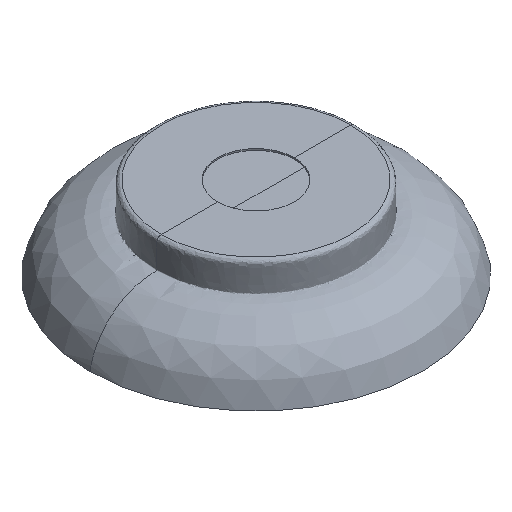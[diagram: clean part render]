
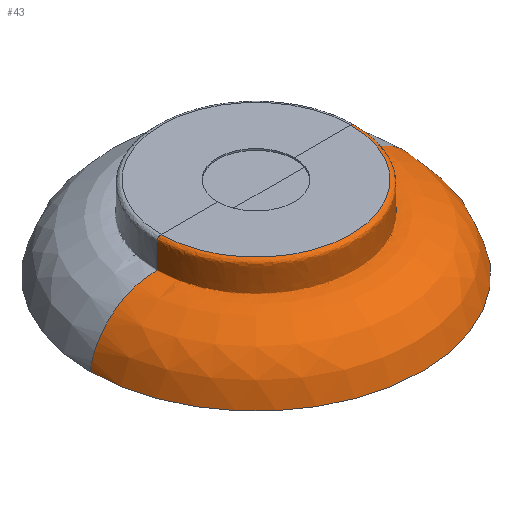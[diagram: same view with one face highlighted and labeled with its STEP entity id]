
A CAD part, isometric view. The second image highlights one B-rep face of the part: STEP entity #43.
In plain terms, the highlighted free-form (B-spline) face has degree [2, 2] with [11, 5] control points.
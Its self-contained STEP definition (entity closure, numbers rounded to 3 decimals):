
#43=ADVANCED_FACE('',(#63),#270,.T.);
#63=FACE_OUTER_BOUND('',#83,.T.);
#83=EDGE_LOOP('',(#118,#119,#120,#121));
#118=ORIENTED_EDGE('',*,*,#180,.T.);
#119=ORIENTED_EDGE('',*,*,#181,.T.);
#120=ORIENTED_EDGE('',*,*,#182,.T.);
#121=ORIENTED_EDGE('',*,*,#183,.F.);
#180=EDGE_CURVE('',#258,#260,#240,.T.);
#181=EDGE_CURVE('',#260,#261,#206,.T.);
#182=EDGE_CURVE('',#261,#259,#241,.T.);
#183=EDGE_CURVE('',#258,#259,#207,.T.);
#206=TRIMMED_CURVE($,#222,(#1972),(#1973),.T.,.CARTESIAN.);
#207=TRIMMED_CURVE($,#223,(#1986),(#1987),.T.,.CARTESIAN.);
#222=CIRCLE('',#376,217.138);
#223=CIRCLE('',#377,124.);
#240=(
BOUNDED_CURVE()
B_SPLINE_CURVE(2,(#1960,#1961,#1962,#1963,#1964,#1965,#1966,#1967,#1968,
#1969,#1970),.UNSPECIFIED.,.F.,.F.)
B_SPLINE_CURVE_WITH_KNOTS((3,2,2,2,2,3),(549.527,558.923,
585.83,586.55,587.27,712.846),
 .UNSPECIFIED.)
CURVE()
GEOMETRIC_REPRESENTATION_ITEM()
RATIONAL_B_SPLINE_CURVE((1.,0.707,1.,1.,1.,0.921,
1.,0.921,1.,0.76,1.))
REPRESENTATION_ITEM('')
);
#241=(
BOUNDED_CURVE()
B_SPLINE_CURVE(2,(#1974,#1975,#1976,#1977,#1978,#1979,#1980,#1981,#1982,
#1983,#1984),.UNSPECIFIED.,.F.,.F.)
B_SPLINE_CURVE_WITH_KNOTS((3,2,2,2,2,3),(-712.846,-587.27,
-586.55,-585.83,-558.923,-549.527),
 .UNSPECIFIED.)
CURVE()
GEOMETRIC_REPRESENTATION_ITEM()
RATIONAL_B_SPLINE_CURVE((1.,0.76,1.,0.921,1.,0.921,
1.,1.,1.,0.707,1.))
REPRESENTATION_ITEM('')
);
#258=VERTEX_POINT('',#1940);
#259=VERTEX_POINT('',#1941);
#260=VERTEX_POINT('',#1942);
#261=VERTEX_POINT('',#1943);
#270=(
BOUNDED_SURFACE()
B_SPLINE_SURFACE(2,2,((#1555,#1556,#1557,#1558,#1559),(#1560,#1561,#1562,
#1563,#1564),(#1565,#1566,#1567,#1568,#1569),(#1570,#1571,#1572,#1573,#1574),
(#1575,#1576,#1577,#1578,#1579),(#1580,#1581,#1582,#1583,#1584),(#1585,
#1586,#1587,#1588,#1589),(#1590,#1591,#1592,#1593,#1594),(#1595,#1596,#1597,
#1598,#1599),(#1600,#1601,#1602,#1603,#1604),(#1605,#1606,#1607,#1608,#1609)),
 .UNSPECIFIED.,.F.,.F.,.F.)
B_SPLINE_SURFACE_WITH_KNOTS((3,2,2,2,2,3),(3,2,3),(549.527,558.166,
589.665,590.463,591.261,712.846),(0.,
340.856,681.711),.UNSPECIFIED.)
GEOMETRIC_REPRESENTATION_ITEM()
RATIONAL_B_SPLINE_SURFACE(((1.,0.707,1.,0.707,1.),
(0.707,0.5,0.707,0.5,
0.707),(1.,0.707,1.,0.707,1.),(1.,0.707,
1.,0.707,1.),(1.,0.707,1.,0.707,1.),
(0.921,0.652,0.921,0.652,
0.921),(1.,0.707,1.,0.707,1.),(0.921,
0.652,0.921,0.652,0.921),
(1.,0.707,1.,0.707,1.),(0.76,0.537,
0.76,0.537,0.76),(1.,0.707,
1.,0.707,1.)))
REPRESENTATION_ITEM('')
SURFACE()
);
#376=AXIS2_PLACEMENT_3D($,#1971,#407,#408);
#377=AXIS2_PLACEMENT_3D($,#1985,#409,#410);
#407=DIRECTION('',(0.,0.,1.));
#408=DIRECTION('',(-1.,0.,0.));
#409=DIRECTION('',(0.,0.,1.));
#410=DIRECTION('',(-1.,0.,0.));
#1555=CARTESIAN_POINT('',(-341.138,0.,121.47));
#1556=CARTESIAN_POINT('',(-341.138,-124.,121.47));
#1557=CARTESIAN_POINT('',(-217.138,-124.,121.47));
#1558=CARTESIAN_POINT('',(-93.138,-124.,121.47));
#1559=CARTESIAN_POINT('',(-93.138,0.,121.47));
#1560=CARTESIAN_POINT('',(-346.638,0.,121.47));
#1561=CARTESIAN_POINT('',(-346.638,-129.5,121.47));
#1562=CARTESIAN_POINT('',(-217.138,-129.5,121.47));
#1563=CARTESIAN_POINT('',(-87.638,-129.5,121.47));
#1564=CARTESIAN_POINT('',(-87.638,0.,121.47));
#1565=CARTESIAN_POINT('',(-346.638,0.,115.97));
#1566=CARTESIAN_POINT('',(-346.638,-129.5,115.97));
#1567=CARTESIAN_POINT('',(-217.138,-129.5,115.97));
#1568=CARTESIAN_POINT('',(-87.638,-129.5,115.97));
#1569=CARTESIAN_POINT('',(-87.638,0.,115.97));
#1570=CARTESIAN_POINT('',(-346.638,0.,100.221));
#1571=CARTESIAN_POINT('',(-346.638,-129.5,100.221));
#1572=CARTESIAN_POINT('',(-217.138,-129.5,100.221));
#1573=CARTESIAN_POINT('',(-87.638,-129.5,100.221));
#1574=CARTESIAN_POINT('',(-87.638,0.,100.221));
#1575=CARTESIAN_POINT('',(-346.638,0.,84.471));
#1576=CARTESIAN_POINT('',(-346.638,-129.5,84.471));
#1577=CARTESIAN_POINT('',(-217.138,-129.5,84.471));
#1578=CARTESIAN_POINT('',(-87.638,-129.5,84.471));
#1579=CARTESIAN_POINT('',(-87.638,0.,84.471));
#1580=CARTESIAN_POINT('',(-346.638,0.,84.05));
#1581=CARTESIAN_POINT('',(-346.638,-129.5,84.05));
#1582=CARTESIAN_POINT('',(-217.138,-129.5,84.05));
#1583=CARTESIAN_POINT('',(-87.638,-129.5,84.05));
#1584=CARTESIAN_POINT('',(-87.638,0.,84.05));
#1585=CARTESIAN_POINT('',(-346.94,0.,83.755));
#1586=CARTESIAN_POINT('',(-346.94,-129.802,83.755));
#1587=CARTESIAN_POINT('',(-217.138,-129.802,83.755));
#1588=CARTESIAN_POINT('',(-87.337,-129.802,83.755));
#1589=CARTESIAN_POINT('',(-87.337,0.,83.755));
#1590=CARTESIAN_POINT('',(-347.242,0.,83.461));
#1591=CARTESIAN_POINT('',(-347.242,-130.103,83.461));
#1592=CARTESIAN_POINT('',(-217.138,-130.103,83.461));
#1593=CARTESIAN_POINT('',(-87.035,-130.103,83.461));
#1594=CARTESIAN_POINT('',(-87.035,0.,83.461));
#1595=CARTESIAN_POINT('',(-347.663,0.,83.471));
#1596=CARTESIAN_POINT('',(-347.663,-130.525,83.471));
#1597=CARTESIAN_POINT('',(-217.138,-130.525,83.471));
#1598=CARTESIAN_POINT('',(-86.614,-130.525,83.471));
#1599=CARTESIAN_POINT('',(-86.614,0.,83.471));
#1600=CARTESIAN_POINT('',(-421.146,0.,85.293));
#1601=CARTESIAN_POINT('',(-421.146,-204.007,85.293));
#1602=CARTESIAN_POINT('',(-217.138,-204.007,85.293));
#1603=CARTESIAN_POINT('',(-13.131,-204.007,85.293));
#1604=CARTESIAN_POINT('',(-13.131,0.,85.293));
#1605=CARTESIAN_POINT('',(-434.277,0.,12.97));
#1606=CARTESIAN_POINT('',(-434.277,-217.138,12.97));
#1607=CARTESIAN_POINT('',(-217.138,-217.138,12.97));
#1608=CARTESIAN_POINT('',(0.,-217.138,12.97));
#1609=CARTESIAN_POINT('',(0.,0.,12.97));
#1940=CARTESIAN_POINT('',(-341.138,0.,121.47));
#1941=CARTESIAN_POINT('',(-93.138,0.,121.47));
#1942=CARTESIAN_POINT('',(-434.277,0.,12.97));
#1943=CARTESIAN_POINT('',(0.,0.,12.97));
#1960=CARTESIAN_POINT('',(-341.138,0.,121.47));
#1961=CARTESIAN_POINT('',(-346.638,0.,121.47));
#1962=CARTESIAN_POINT('',(-346.638,0.,115.97));
#1963=CARTESIAN_POINT('',(-346.638,0.,100.221));
#1964=CARTESIAN_POINT('',(-346.638,0.,84.471));
#1965=CARTESIAN_POINT('',(-346.638,0.,84.05));
#1966=CARTESIAN_POINT('',(-346.94,0.,83.755));
#1967=CARTESIAN_POINT('',(-347.242,0.,83.461));
#1968=CARTESIAN_POINT('',(-347.663,0.,83.471));
#1969=CARTESIAN_POINT('',(-421.146,0.,85.293));
#1970=CARTESIAN_POINT('',(-434.277,0.,12.97));
#1971=CARTESIAN_POINT('',(-217.138,0.,12.97));
#1972=CARTESIAN_POINT('',(-434.277,0.,12.97));
#1973=CARTESIAN_POINT('',(0.,0.,12.97));
#1974=CARTESIAN_POINT('',(0.,0.,12.97));
#1975=CARTESIAN_POINT('',(-13.131,0.,85.293));
#1976=CARTESIAN_POINT('',(-86.614,0.,83.471));
#1977=CARTESIAN_POINT('',(-87.035,0.,83.461));
#1978=CARTESIAN_POINT('',(-87.337,0.,83.755));
#1979=CARTESIAN_POINT('',(-87.638,0.,84.05));
#1980=CARTESIAN_POINT('',(-87.638,0.,84.471));
#1981=CARTESIAN_POINT('',(-87.638,0.,100.221));
#1982=CARTESIAN_POINT('',(-87.638,0.,115.97));
#1983=CARTESIAN_POINT('',(-87.638,0.,121.47));
#1984=CARTESIAN_POINT('',(-93.138,0.,121.47));
#1985=CARTESIAN_POINT('',(-217.138,0.,121.47));
#1986=CARTESIAN_POINT('',(-341.138,0.,121.47));
#1987=CARTESIAN_POINT('',(-93.138,0.,121.47));
